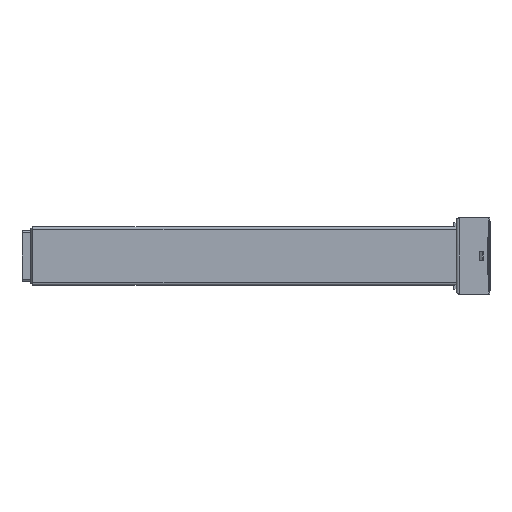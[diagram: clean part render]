
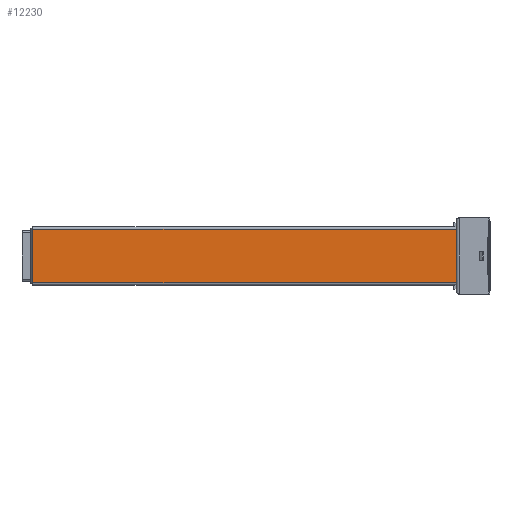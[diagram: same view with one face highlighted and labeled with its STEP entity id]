
A CAD part, left-side view. The second image highlights one B-rep face of the part: STEP entity #12230.
In plain terms, the highlighted planar face has unit normal (-1, 0, 0).
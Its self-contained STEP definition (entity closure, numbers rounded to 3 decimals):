
#275 = PLANE ( 'NONE',  #6131 ) ;
#930 = FACE_OUTER_BOUND ( 'NONE', #41407, .T. ) ;
#1666 = LINE ( 'NONE', #29382, #31591 ) ;
#3547 = DIRECTION ( 'NONE',  ( 0., 0., -1. ) ) ;
#5496 = LINE ( 'NONE', #23189, #13491 ) ;
#6131 = AXIS2_PLACEMENT_3D ( 'NONE', #13119, #29169, #35040 ) ;
#8530 = DIRECTION ( 'NONE',  ( 0., 0., 1. ) ) ;
#10721 = EDGE_CURVE ( 'NONE', #22993, #38272, #1666, .T. ) ;
#11045 = VECTOR ( 'NONE', #38978, 1000. ) ;
#12230 = ADVANCED_FACE ( 'NONE', ( #930 ), #275, .F. ) ;
#12464 = EDGE_CURVE ( 'NONE', #28417, #29289, #14892, .T. ) ;
#13119 = CARTESIAN_POINT ( 'NONE',  ( -34.02, 268.243, 673. ) ) ;
#13491 = VECTOR ( 'NONE', #36002, 1000. ) ;
#14892 = LINE ( 'NONE', #24301, #28839 ) ;
#15524 = ORIENTED_EDGE ( 'NONE', *, *, #36056, .T. ) ;
#17875 = ORIENTED_EDGE ( 'NONE', *, *, #12464, .F. ) ;
#18542 = CARTESIAN_POINT ( 'NONE',  ( -34.02, 268.243, 670. ) ) ;
#19597 = CARTESIAN_POINT ( 'NONE',  ( -34.02, 268.243, 596. ) ) ;
#22993 = VERTEX_POINT ( 'NONE', #31816 ) ;
#23189 = CARTESIAN_POINT ( 'NONE',  ( -34.02, 268.243, 670. ) ) ;
#24301 = CARTESIAN_POINT ( 'NONE',  ( -34.02, 268.243, 673. ) ) ;
#24534 = LINE ( 'NONE', #26551, #11045 ) ;
#26551 = CARTESIAN_POINT ( 'NONE',  ( -34.02, 268.243, 596. ) ) ;
#28417 = VERTEX_POINT ( 'NONE', #19597 ) ;
#28839 = VECTOR ( 'NONE', #8530, 1000. ) ;
#29169 = DIRECTION ( 'NONE',  ( 1., 0., 0. ) ) ;
#29289 = VERTEX_POINT ( 'NONE', #18542 ) ;
#29382 = CARTESIAN_POINT ( 'NONE',  ( -34.02, -315.257, 596. ) ) ;
#31591 = VECTOR ( 'NONE', #3547, 1000. ) ;
#31816 = CARTESIAN_POINT ( 'NONE',  ( -34.02, -315.257, 670. ) ) ;
#32921 = CARTESIAN_POINT ( 'NONE',  ( -34.02, -315.257, 596. ) ) ;
#34009 = ORIENTED_EDGE ( 'NONE', *, *, #10721, .F. ) ;
#35040 = DIRECTION ( 'NONE',  ( 0., 0., -1. ) ) ;
#36002 = DIRECTION ( 'NONE',  ( 0., 1., 0. ) ) ;
#36056 = EDGE_CURVE ( 'NONE', #28417, #38272, #24534, .T. ) ;
#36499 = EDGE_CURVE ( 'NONE', #22993, #29289, #5496, .T. ) ;
#36919 = ORIENTED_EDGE ( 'NONE', *, *, #36499, .T. ) ;
#38272 = VERTEX_POINT ( 'NONE', #32921 ) ;
#38978 = DIRECTION ( 'NONE',  ( 0., -1., 0. ) ) ;
#41407 = EDGE_LOOP ( 'NONE', ( #15524, #34009, #36919, #17875 ) ) ;
